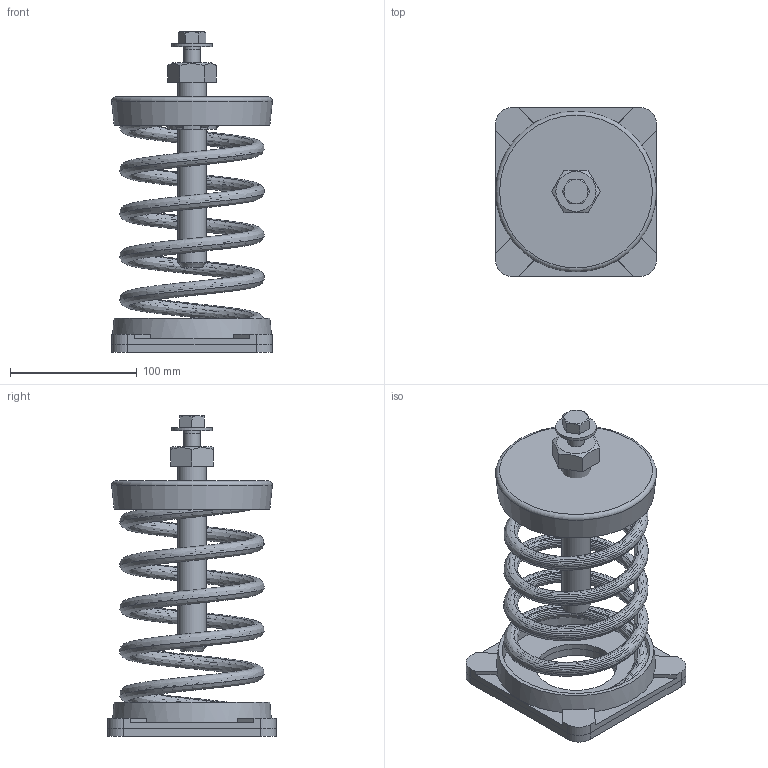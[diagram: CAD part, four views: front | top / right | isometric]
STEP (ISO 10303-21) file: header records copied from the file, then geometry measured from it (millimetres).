
FILE_DESCRIPTION(/* description */ (''),/* implementation_level */ '2;1');
FILE_NAME(/* name */ 'C:\001_Work\Designs\SLF ASSEMBLIES\SLF-130.stp',/* time_stamp */ '2016-01-10T15:31:54-05:00',/* author */ ('rramoutar'),/* organization */ ('Mason Industries Inc.'),/* preprocessor_version */ 'ST-DEVELOPER v15.6',/* originating_system */ 'Autodesk Inventor 2015',/* authorisation */ '');
FILE_SCHEMA (('CONFIG_CONTROL_DESIGN'));
Length unit declared in the file: inch
Products named in the file (1): SLF-130
Bounding box: 127.02 x 133.35 x 253.09 mm (x, y, z)
Volume: 429794 mm3; surface area: 248787 mm2
Topology: 7 solids, 7 shells, 150 faces, 365 edges, 238 vertices
Faces by surface type: plane 87, cylinder 25, bspline 22, cone 14, torus 2
Full cylindrical faces by diameter (mm): 9.525 x4, 12.7 x2, 13.487 x1, 19.05 x1, 19.447 x1, 22.225 x1, 31.75 x1, 63.5 x2, 116.681 x2
Entity records: 12751 total; most frequent: CARTESIAN_POINT 9338, ORIENTED_EDGE 666, DIRECTION 598, EDGE_CURVE 333, VERTEX_POINT 231, AXIS2_PLACEMENT_3D 222, EDGE_LOOP 194, STYLED_ITEM 157
